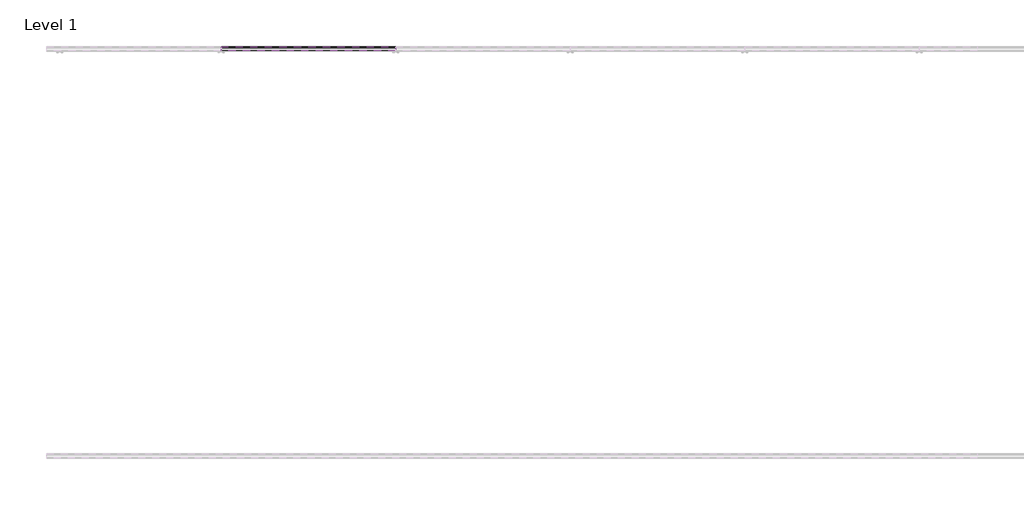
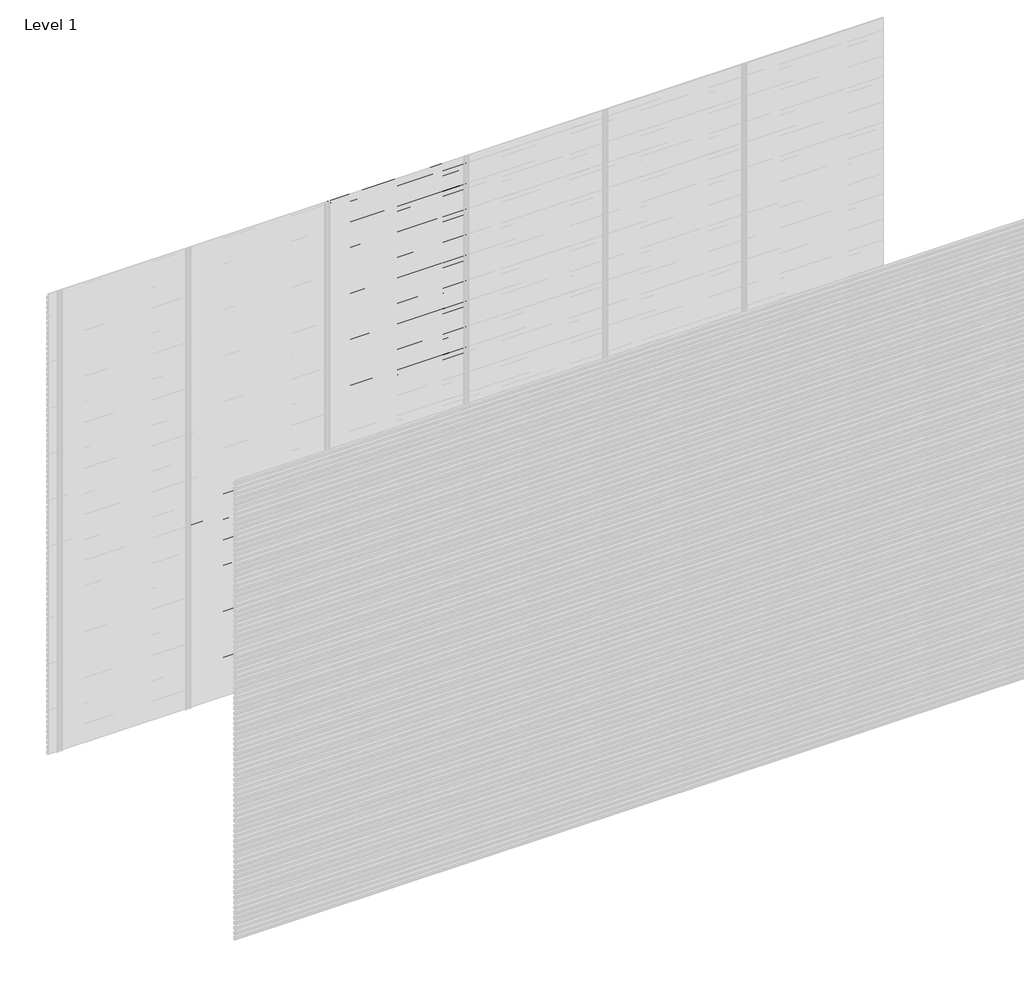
# One storey, part 91 of 96: 82 proxies.
"""IFC4 building model written with IfcOpenShell, lengths in millimetres."""

from ifc_helpers import new_model, si_unit, frame, origin, place, context, project, spatial, polyline, outline, extrude, element, save

model = new_model("IFC4")

# Units and contexts
model_context = context("Model", 3, world=origin())
ifc_project = project(units=[si_unit("LENGTHUNIT", "METRE", prefix="MILLI")], contexts=[model_context])

# Site, building, storey
site = spatial("IfcSite", under=ifc_project)
building = spatial("IfcBuilding", under=site)
storey = spatial("IfcBuildingStorey", under=building, Name="Level 1", Elevation=0.0)

# Proxies
placement = place(None, origin())
element("IfcBuildingElementProxy", 1, Name="Wall Sweeps", at=placement, inside=storey, context=model_context, shape_type="SweptSolid", body=[
    extrude(outline(polyline([(22.4, 1306.7655033), (22.4, 1292.4779188), (17.5885035, 1289.7), (17.5885035, 1290.9701706), (21.15, 1293.0264016), (21.15, 1306.0437382), (2.0, 1317.1000799), (2.0, 1332.0), (3.25, 1332.0), (3.25, 1317.8217609), (22.4, 1306.7655033)])), frame((857.1428571, 0.0, 0.0), z_axis=(1.0, 0.0, 0.0), x_axis=(0.0, 1.0, 0.0)), (0.0, 0.0, 1.0), 857.1428571),
])
element("IfcBuildingElementProxy", 2, Name="Wall Sweeps", at=placement, inside=storey, context=model_context, shape_type="SweptSolid", body=[
    extrude(outline(polyline([(22.4, 1273.4655033), (22.4, 1259.1779188), (17.5885035, 1256.4), (17.5885035, 1257.6701706), (21.15, 1259.7264016), (21.15, 1272.7437382), (2.0, 1283.8000799), (2.0, 1298.7), (3.25, 1298.7), (3.25, 1284.5217609), (22.4, 1273.4655033)])), frame((857.1428571, 0.0, 0.0), z_axis=(1.0, 0.0, 0.0), x_axis=(0.0, 1.0, 0.0)), (0.0, 0.0, 1.0), 857.1428571),
])
element("IfcBuildingElementProxy", 3, Name="Wall Sweeps", at=placement, inside=storey, context=model_context, shape_type="SweptSolid", body=[
    extrude(outline(polyline([(22.4, 1240.1655033), (22.4, 1225.8779188), (17.5885035, 1223.1), (17.5885035, 1224.3701706), (21.15, 1226.4264016), (21.15, 1239.4437382), (2.0, 1250.5000799), (2.0, 1265.4), (3.25, 1265.4), (3.25, 1251.2217609), (22.4, 1240.1655033)])), frame((857.1428571, 0.0, 0.0), z_axis=(1.0, 0.0, 0.0), x_axis=(0.0, 1.0, 0.0)), (0.0, 0.0, 1.0), 857.1428571),
])
element("IfcBuildingElementProxy", 4, Name="Wall Sweeps", at=placement, inside=storey, context=model_context, shape_type="SweptSolid", body=[
    extrude(outline(polyline([(22.4, 1206.8655033), (22.4, 1192.5779188), (17.5885035, 1189.8), (17.5885035, 1191.0701706), (21.15, 1193.1264016), (21.15, 1206.1437382), (2.0, 1217.2000799), (2.0, 1232.1), (3.25, 1232.1), (3.25, 1217.9217609), (22.4, 1206.8655033)])), frame((857.1428571, 0.0, 0.0), z_axis=(1.0, 0.0, 0.0), x_axis=(0.0, 1.0, 0.0)), (0.0, 0.0, 1.0), 857.1428571),
])
element("IfcBuildingElementProxy", 5, Name="Wall Sweeps", at=placement, inside=storey, context=model_context, shape_type="SweptSolid", body=[
    extrude(outline(polyline([(22.4, 1173.5655033), (22.4, 1159.2779188), (17.5885035, 1156.5), (17.5885035, 1157.7701706), (21.15, 1159.8264016), (21.15, 1172.8437382), (2.0, 1183.9000799), (2.0, 1198.8), (3.25, 1198.8), (3.25, 1184.6217609), (22.4, 1173.5655033)])), frame((857.1428571, 0.0, 0.0), z_axis=(1.0, 0.0, 0.0), x_axis=(0.0, 1.0, 0.0)), (0.0, 0.0, 1.0), 857.1428571),
])
element("IfcBuildingElementProxy", 6, Name="Wall Sweeps", at=placement, inside=storey, context=model_context, shape_type="SweptSolid", body=[
    extrude(outline(polyline([(22.4, 1140.2655033), (22.4, 1125.9779188), (17.5885035, 1123.2), (17.5885035, 1124.4701706), (21.15, 1126.5264016), (21.15, 1139.5437382), (2.0, 1150.6000799), (2.0, 1165.5), (3.25, 1165.5), (3.25, 1151.3217609), (22.4, 1140.2655033)])), frame((857.1428571, 0.0, 0.0), z_axis=(1.0, 0.0, 0.0), x_axis=(0.0, 1.0, 0.0)), (0.0, 0.0, 1.0), 857.1428571),
])
element("IfcBuildingElementProxy", 7, Name="Wall Sweeps", at=placement, inside=storey, context=model_context, shape_type="SweptSolid", body=[
    extrude(outline(polyline([(22.4, 1106.9655033), (22.4, 1092.6779188), (17.5885035, 1089.9), (17.5885035, 1091.1701706), (21.15, 1093.2264016), (21.15, 1106.2437382), (2.0, 1117.3000799), (2.0, 1132.2), (3.25, 1132.2), (3.25, 1118.0217609), (22.4, 1106.9655033)])), frame((857.1428571, 0.0, 0.0), z_axis=(1.0, 0.0, 0.0), x_axis=(0.0, 1.0, 0.0)), (0.0, 0.0, 1.0), 857.1428571),
])
element("IfcBuildingElementProxy", 8, Name="Wall Sweeps", at=placement, inside=storey, context=model_context, shape_type="SweptSolid", body=[
    extrude(outline(polyline([(22.4, 1073.6655033), (22.4, 1059.3779188), (17.5885035, 1056.6), (17.5885035, 1057.8701706), (21.15, 1059.9264016), (21.15, 1072.9437382), (2.0, 1084.0000799), (2.0, 1098.9), (3.25, 1098.9), (3.25, 1084.7217609), (22.4, 1073.6655033)])), frame((857.1428571, 0.0, 0.0), z_axis=(1.0, 0.0, 0.0), x_axis=(0.0, 1.0, 0.0)), (0.0, 0.0, 1.0), 857.1428571),
])
element("IfcBuildingElementProxy", 9, Name="Wall Sweeps", at=placement, inside=storey, context=model_context, shape_type="SweptSolid", body=[
    extrude(outline(polyline([(22.4, 1040.3655033), (22.4, 1026.0779188), (17.5885035, 1023.3), (17.5885035, 1024.5701706), (21.15, 1026.6264016), (21.15, 1039.6437382), (2.0, 1050.7000799), (2.0, 1065.6), (3.25, 1065.6), (3.25, 1051.4217609), (22.4, 1040.3655033)])), frame((857.1428571, 0.0, 0.0), z_axis=(1.0, 0.0, 0.0), x_axis=(0.0, 1.0, 0.0)), (0.0, 0.0, 1.0), 857.1428571),
])
element("IfcBuildingElementProxy", 10, Name="Wall Sweeps", at=placement, inside=storey, context=model_context, shape_type="SweptSolid", body=[
    extrude(outline(polyline([(22.4, 1007.0655033), (22.4, 992.7779188), (17.5885035, 990.0), (17.5885035, 991.2701706), (21.15, 993.3264016), (21.15, 1006.3437382), (2.0, 1017.4000799), (2.0, 1032.3), (3.25, 1032.3), (3.25, 1018.1217609), (22.4, 1007.0655033)])), frame((857.1428571, 0.0, 0.0), z_axis=(1.0, 0.0, 0.0), x_axis=(0.0, 1.0, 0.0)), (0.0, 0.0, 1.0), 857.1428571),
])
element("IfcBuildingElementProxy", 11, Name="Wall Sweeps", at=placement, inside=storey, context=model_context, shape_type="SweptSolid", body=[
    extrude(outline(polyline([(22.4, 973.7655033), (22.4, 959.4779188), (17.5885035, 956.7), (17.5885035, 957.9701706), (21.15, 960.0264016), (21.15, 973.0437382), (2.0, 984.1000799), (2.0, 999.0), (3.25, 999.0), (3.25, 984.8217609), (22.4, 973.7655033)])), frame((857.1428571, 0.0, 0.0), z_axis=(1.0, 0.0, 0.0), x_axis=(0.0, 1.0, 0.0)), (0.0, 0.0, 1.0), 857.1428571),
])
element("IfcBuildingElementProxy", 12, Name="Wall Sweeps", at=placement, inside=storey, context=model_context, shape_type="SweptSolid", body=[
    extrude(outline(polyline([(22.4, 940.4655033), (22.4, 926.1779188), (17.5885035, 923.4), (17.5885035, 924.6701706), (21.15, 926.7264016), (21.15, 939.7437382), (2.0, 950.8000799), (2.0, 965.7), (3.25, 965.7), (3.25, 951.5217609), (22.4, 940.4655033)])), frame((857.1428571, 0.0, 0.0), z_axis=(1.0, 0.0, 0.0), x_axis=(0.0, 1.0, 0.0)), (0.0, 0.0, 1.0), 857.1428571),
])
element("IfcBuildingElementProxy", 13, Name="Wall Sweeps", at=placement, inside=storey, context=model_context, shape_type="SweptSolid", body=[
    extrude(outline(polyline([(22.4, 907.1655033), (22.4, 892.8779188), (17.5885035, 890.1), (17.5885035, 891.3701706), (21.15, 893.4264016), (21.15, 906.4437382), (2.0, 917.5000799), (2.0, 932.4), (3.25, 932.4), (3.25, 918.2217609), (22.4, 907.1655033)])), frame((857.1428571, 0.0, 0.0), z_axis=(1.0, 0.0, 0.0), x_axis=(0.0, 1.0, 0.0)), (0.0, 0.0, 1.0), 857.1428571),
])
element("IfcBuildingElementProxy", 14, Name="Wall Sweeps", at=placement, inside=storey, context=model_context, shape_type="SweptSolid", body=[
    extrude(outline(polyline([(22.4, 873.8655033), (22.4, 859.5779188), (17.5885035, 856.8), (17.5885035, 858.0701706), (21.15, 860.1264016), (21.15, 873.1437382), (2.0, 884.2000799), (2.0, 899.1), (3.25, 899.1), (3.25, 884.9217609), (22.4, 873.8655033)])), frame((857.1428571, 0.0, 0.0), z_axis=(1.0, 0.0, 0.0), x_axis=(0.0, 1.0, 0.0)), (0.0, 0.0, 1.0), 857.1428571),
])
element("IfcBuildingElementProxy", 15, Name="Wall Sweeps", at=placement, inside=storey, context=model_context, shape_type="SweptSolid", body=[
    extrude(outline(polyline([(22.4, 840.5655033), (22.4, 826.2779188), (17.5885035, 823.5), (17.5885035, 824.7701706), (21.15, 826.8264016), (21.15, 839.8437382), (2.0, 850.9000799), (2.0, 865.8), (3.25, 865.8), (3.25, 851.6217609), (22.4, 840.5655033)])), frame((857.1428571, 0.0, 0.0), z_axis=(1.0, 0.0, 0.0), x_axis=(0.0, 1.0, 0.0)), (0.0, 0.0, 1.0), 857.1428571),
])
element("IfcBuildingElementProxy", 16, Name="Wall Sweeps", at=placement, inside=storey, context=model_context, shape_type="SweptSolid", body=[
    extrude(outline(polyline([(22.4, 807.2655033), (22.4, 792.9779188), (17.5885035, 790.2), (17.5885035, 791.4701706), (21.15, 793.5264016), (21.15, 806.5437382), (2.0, 817.6000799), (2.0, 832.5), (3.25, 832.5), (3.25, 818.3217609), (22.4, 807.2655033)])), frame((857.1428571, 0.0, 0.0), z_axis=(1.0, 0.0, 0.0), x_axis=(0.0, 1.0, 0.0)), (0.0, 0.0, 1.0), 857.1428571),
])
element("IfcBuildingElementProxy", 17, Name="Wall Sweeps", at=placement, inside=storey, context=model_context, shape_type="SweptSolid", body=[
    extrude(outline(polyline([(22.4, 773.9655033), (22.4, 759.6779188), (17.5885035, 756.9), (17.5885035, 758.1701706), (21.15, 760.2264016), (21.15, 773.2437382), (2.0, 784.3000799), (2.0, 799.2), (3.25, 799.2), (3.25, 785.0217609), (22.4, 773.9655033)])), frame((857.1428571, 0.0, 0.0), z_axis=(1.0, 0.0, 0.0), x_axis=(0.0, 1.0, 0.0)), (0.0, 0.0, 1.0), 857.1428571),
])
element("IfcBuildingElementProxy", 18, Name="Wall Sweeps", at=placement, inside=storey, context=model_context, shape_type="SweptSolid", body=[
    extrude(outline(polyline([(22.4, 740.6655033), (22.4, 726.3779188), (17.5885035, 723.6), (17.5885035, 724.8701706), (21.15, 726.9264016), (21.15, 739.9437382), (2.0, 751.0000799), (2.0, 765.9), (3.25, 765.9), (3.25, 751.7217609), (22.4, 740.6655033)])), frame((857.1428571, 0.0, 0.0), z_axis=(1.0, 0.0, 0.0), x_axis=(0.0, 1.0, 0.0)), (0.0, 0.0, 1.0), 857.1428571),
])
element("IfcBuildingElementProxy", 19, Name="Wall Sweeps", at=placement, inside=storey, context=model_context, shape_type="SweptSolid", body=[
    extrude(outline(polyline([(22.4, 707.3655033), (22.4, 693.0779188), (17.5885035, 690.3), (17.5885035, 691.5701706), (21.15, 693.6264016), (21.15, 706.6437382), (2.0, 717.7000799), (2.0, 732.6), (3.25, 732.6), (3.25, 718.4217609), (22.4, 707.3655033)])), frame((857.1428571, 0.0, 0.0), z_axis=(1.0, 0.0, 0.0), x_axis=(0.0, 1.0, 0.0)), (0.0, 0.0, 1.0), 857.1428571),
])
element("IfcBuildingElementProxy", 20, Name="Wall Sweeps", at=placement, inside=storey, context=model_context, shape_type="SweptSolid", body=[
    extrude(outline(polyline([(22.4, 674.0655033), (22.4, 659.7779188), (17.5885035, 657.0), (17.5885035, 658.2701706), (21.15, 660.3264016), (21.15, 673.3437382), (2.0, 684.4000799), (2.0, 699.3), (3.25, 699.3), (3.25, 685.1217609), (22.4, 674.0655033)])), frame((857.1428571, 0.0, 0.0), z_axis=(1.0, 0.0, 0.0), x_axis=(0.0, 1.0, 0.0)), (0.0, 0.0, 1.0), 857.1428571),
])
element("IfcBuildingElementProxy", 21, Name="Wall Sweeps", at=placement, inside=storey, context=model_context, shape_type="SweptSolid", body=[
    extrude(outline(polyline([(22.4, 640.7655033), (22.4, 626.4779188), (17.5885035, 623.7), (17.5885035, 624.9701706), (21.15, 627.0264016), (21.15, 640.0437382), (2.0, 651.1000799), (2.0, 666.0), (3.25, 666.0), (3.25, 651.8217609), (22.4, 640.7655033)])), frame((857.1428571, 0.0, 0.0), z_axis=(1.0, 0.0, 0.0), x_axis=(0.0, 1.0, 0.0)), (0.0, 0.0, 1.0), 857.1428571),
])
element("IfcBuildingElementProxy", 22, Name="Wall Sweeps", at=placement, inside=storey, context=model_context, shape_type="SweptSolid", body=[
    extrude(outline(polyline([(22.4, 607.4655033), (22.4, 593.1779188), (17.5885035, 590.4), (17.5885035, 591.6701706), (21.15, 593.7264016), (21.15, 606.7437382), (2.0, 617.8000799), (2.0, 632.7), (3.25, 632.7), (3.25, 618.5217609), (22.4, 607.4655033)])), frame((857.1428571, 0.0, 0.0), z_axis=(1.0, 0.0, 0.0), x_axis=(0.0, 1.0, 0.0)), (0.0, 0.0, 1.0), 857.1428571),
])
element("IfcBuildingElementProxy", 23, Name="Wall Sweeps", at=placement, inside=storey, context=model_context, shape_type="SweptSolid", body=[
    extrude(outline(polyline([(22.4, 574.1655033), (22.4, 559.8779188), (17.5885035, 557.1), (17.5885035, 558.3701706), (21.15, 560.4264016), (21.15, 573.4437382), (2.0, 584.5000799), (2.0, 599.4), (3.25, 599.4), (3.25, 585.2217609), (22.4, 574.1655033)])), frame((857.1428571, 0.0, 0.0), z_axis=(1.0, 0.0, 0.0), x_axis=(0.0, 1.0, 0.0)), (0.0, 0.0, 1.0), 857.1428571),
])
element("IfcBuildingElementProxy", 24, Name="Wall Sweeps", at=placement, inside=storey, context=model_context, shape_type="SweptSolid", body=[
    extrude(outline(polyline([(22.4, 540.8655033), (22.4, 526.5779188), (17.5885035, 523.8), (17.5885035, 525.0701706), (21.15, 527.1264016), (21.15, 540.1437382), (2.0, 551.2000799), (2.0, 566.1), (3.25, 566.1), (3.25, 551.9217609), (22.4, 540.8655033)])), frame((857.1428571, 0.0, 0.0), z_axis=(1.0, 0.0, 0.0), x_axis=(0.0, 1.0, 0.0)), (0.0, 0.0, 1.0), 857.1428571),
])
element("IfcBuildingElementProxy", 25, Name="Wall Sweeps", at=placement, inside=storey, context=model_context, shape_type="SweptSolid", body=[
    extrude(outline(polyline([(22.4, 507.5655033), (22.4, 493.2779188), (17.5885035, 490.5), (17.5885035, 491.7701706), (21.15, 493.8264016), (21.15, 506.8437382), (2.0, 517.9000799), (2.0, 532.8), (3.25, 532.8), (3.25, 518.6217609), (22.4, 507.5655033)])), frame((857.1428571, 0.0, 0.0), z_axis=(1.0, 0.0, 0.0), x_axis=(0.0, 1.0, 0.0)), (0.0, 0.0, 1.0), 857.1428571),
])
element("IfcBuildingElementProxy", 26, Name="Wall Sweeps", at=placement, inside=storey, context=model_context, shape_type="SweptSolid", body=[
    extrude(outline(polyline([(22.4, 474.2655033), (22.4, 459.9779188), (17.5885035, 457.2), (17.5885035, 458.4701706), (21.15, 460.5264016), (21.15, 473.5437382), (2.0, 484.6000799), (2.0, 499.5), (3.25, 499.5), (3.25, 485.3217609), (22.4, 474.2655033)])), frame((857.1428571, 0.0, 0.0), z_axis=(1.0, 0.0, 0.0), x_axis=(0.0, 1.0, 0.0)), (0.0, 0.0, 1.0), 857.1428571),
])
element("IfcBuildingElementProxy", 27, Name="Wall Sweeps", at=placement, inside=storey, context=model_context, shape_type="SweptSolid", body=[
    extrude(outline(polyline([(22.4, 440.9655033), (22.4, 426.6779188), (17.5885035, 423.9), (17.5885035, 425.1701706), (21.15, 427.2264016), (21.15, 440.2437382), (2.0, 451.3000799), (2.0, 466.2), (3.25, 466.2), (3.25, 452.0217609), (22.4, 440.9655033)])), frame((857.1428571, 0.0, 0.0), z_axis=(1.0, 0.0, 0.0), x_axis=(0.0, 1.0, 0.0)), (0.0, 0.0, 1.0), 857.1428571),
])
element("IfcBuildingElementProxy", 28, Name="Wall Sweeps", at=placement, inside=storey, context=model_context, shape_type="SweptSolid", body=[
    extrude(outline(polyline([(22.4, 407.6655033), (22.4, 393.3779188), (17.5885035, 390.6), (17.5885035, 391.8701706), (21.15, 393.9264016), (21.15, 406.9437382), (2.0, 418.0000799), (2.0, 432.9), (3.25, 432.9), (3.25, 418.7217609), (22.4, 407.6655033)])), frame((857.1428571, 0.0, 0.0), z_axis=(1.0, 0.0, 0.0), x_axis=(0.0, 1.0, 0.0)), (0.0, 0.0, 1.0), 857.1428571),
])
element("IfcBuildingElementProxy", 29, Name="Wall Sweeps", at=placement, inside=storey, context=model_context, shape_type="SweptSolid", body=[
    extrude(outline(polyline([(22.4, 374.3655033), (22.4, 360.0779188), (17.5885035, 357.3), (17.5885035, 358.5701706), (21.15, 360.6264016), (21.15, 373.6437382), (2.0, 384.7000799), (2.0, 399.6), (3.25, 399.6), (3.25, 385.4217609), (22.4, 374.3655033)])), frame((857.1428571, 0.0, 0.0), z_axis=(1.0, 0.0, 0.0), x_axis=(0.0, 1.0, 0.0)), (0.0, 0.0, 1.0), 857.1428571),
])
element("IfcBuildingElementProxy", 30, Name="Wall Sweeps", at=placement, inside=storey, context=model_context, shape_type="SweptSolid", body=[
    extrude(outline(polyline([(22.4, 341.0655033), (22.4, 326.7779188), (17.5885035, 324.0), (17.5885035, 325.2701706), (21.15, 327.3264016), (21.15, 340.3437382), (2.0, 351.4000799), (2.0, 366.3), (3.25, 366.3), (3.25, 352.1217609), (22.4, 341.0655033)])), frame((857.1428571, 0.0, 0.0), z_axis=(1.0, 0.0, 0.0), x_axis=(0.0, 1.0, 0.0)), (0.0, 0.0, 1.0), 857.1428571),
])
element("IfcBuildingElementProxy", 31, Name="Wall Sweeps", at=placement, inside=storey, context=model_context, shape_type="SweptSolid", body=[
    extrude(outline(polyline([(22.4, 307.7655033), (22.4, 293.4779188), (17.5885035, 290.7), (17.5885035, 291.9701706), (21.15, 294.0264016), (21.15, 307.0437382), (2.0, 318.1000799), (2.0, 333.0), (3.25, 333.0), (3.25, 318.8217609), (22.4, 307.7655033)])), frame((857.1428571, 0.0, 0.0), z_axis=(1.0, 0.0, 0.0), x_axis=(0.0, 1.0, 0.0)), (0.0, 0.0, 1.0), 857.1428571),
])
element("IfcBuildingElementProxy", 32, Name="Wall Sweeps", at=placement, inside=storey, context=model_context, shape_type="SweptSolid", body=[
    extrude(outline(polyline([(22.4, 274.4655033), (22.4, 260.1779188), (17.5885035, 257.4), (17.5885035, 258.6701706), (21.15, 260.7264016), (21.15, 273.7437382), (2.0, 284.8000799), (2.0, 299.7), (3.25, 299.7), (3.25, 285.5217609), (22.4, 274.4655033)])), frame((857.1428571, 0.0, 0.0), z_axis=(1.0, 0.0, 0.0), x_axis=(0.0, 1.0, 0.0)), (0.0, 0.0, 1.0), 857.1428571),
])
element("IfcBuildingElementProxy", 33, Name="Wall Sweeps", at=placement, inside=storey, context=model_context, shape_type="SweptSolid", body=[
    extrude(outline(polyline([(22.4, 241.1655033), (22.4, 226.8779188), (17.5885035, 224.1), (17.5885035, 225.3701706), (21.15, 227.4264016), (21.15, 240.4437382), (2.0, 251.5000799), (2.0, 266.4), (3.25, 266.4), (3.25, 252.2217609), (22.4, 241.1655033)])), frame((857.1428571, 0.0, 0.0), z_axis=(1.0, 0.0, 0.0), x_axis=(0.0, 1.0, 0.0)), (0.0, 0.0, 1.0), 857.1428571),
])
element("IfcBuildingElementProxy", 34, Name="Wall Sweeps", at=placement, inside=storey, context=model_context, shape_type="SweptSolid", body=[
    extrude(outline(polyline([(22.4, 207.8655033), (22.4, 193.5779188), (17.5885035, 190.8), (17.5885035, 192.0701706), (21.15, 194.1264016), (21.15, 207.1437382), (2.0, 218.2000799), (2.0, 233.1), (3.25, 233.1), (3.25, 218.9217609), (22.4, 207.8655033)])), frame((857.1428571, 0.0, 0.0), z_axis=(1.0, 0.0, 0.0), x_axis=(0.0, 1.0, 0.0)), (0.0, 0.0, 1.0), 857.1428571),
])
element("IfcBuildingElementProxy", 35, Name="Wall Sweeps", at=placement, inside=storey, context=model_context, shape_type="SweptSolid", body=[
    extrude(outline(polyline([(22.4, 174.5655033), (22.4, 160.2779188), (17.5885035, 157.5), (17.5885035, 158.7701706), (21.15, 160.8264016), (21.15, 173.8437382), (2.0, 184.9000799), (2.0, 199.8), (3.25, 199.8), (3.25, 185.6217609), (22.4, 174.5655033)])), frame((857.1428571, 0.0, 0.0), z_axis=(1.0, 0.0, 0.0), x_axis=(0.0, 1.0, 0.0)), (0.0, 0.0, 1.0), 857.1428571),
])
element("IfcBuildingElementProxy", 36, Name="Wall Sweeps", at=placement, inside=storey, context=model_context, shape_type="SweptSolid", body=[
    extrude(outline(polyline([(22.4, 141.2655033), (22.4, 126.9779188), (17.5885035, 124.2), (17.5885035, 125.4701706), (21.15, 127.5264016), (21.15, 140.5437382), (2.0, 151.6000799), (2.0, 166.5), (3.25, 166.5), (3.25, 152.3217609), (22.4, 141.2655033)])), frame((857.1428571, 0.0, 0.0), z_axis=(1.0, 0.0, 0.0), x_axis=(0.0, 1.0, 0.0)), (0.0, 0.0, 1.0), 857.1428571),
])
element("IfcBuildingElementProxy", 37, Name="Wall Sweeps", at=placement, inside=storey, context=model_context, shape_type="SweptSolid", body=[
    extrude(outline(polyline([(22.4, 107.9655033), (22.4, 93.6779188), (17.5885035, 90.9), (17.5885035, 92.1701706), (21.15, 94.2264016), (21.15, 107.2437382), (2.0, 118.3000799), (2.0, 133.2), (3.25, 133.2), (3.25, 119.0217609), (22.4, 107.9655033)])), frame((857.1428571, 0.0, 0.0), z_axis=(1.0, 0.0, 0.0), x_axis=(0.0, 1.0, 0.0)), (0.0, 0.0, 1.0), 857.1428571),
])
element("IfcBuildingElementProxy", 38, Name="Wall Sweeps", at=placement, inside=storey, context=model_context, shape_type="SweptSolid", body=[
    extrude(outline(polyline([(22.4, 74.6655033), (22.4, 60.3779188), (17.5885035, 57.6), (17.5885035, 58.8701706), (21.15, 60.9264016), (21.15, 73.9437382), (2.0, 85.0000799), (2.0, 99.9), (3.25, 99.9), (3.25, 85.7217609), (22.4, 74.6655033)])), frame((857.1428571, 0.0, 0.0), z_axis=(1.0, 0.0, 0.0), x_axis=(0.0, 1.0, 0.0)), (0.0, 0.0, 1.0), 857.1428571),
])
element("IfcBuildingElementProxy", 39, Name="Wall Sweeps", at=placement, inside=storey, context=model_context, shape_type="SweptSolid", body=[
    extrude(outline(polyline([(22.4, 41.3655033), (22.4, 27.0779188), (17.5885035, 24.3), (17.5885035, 25.5701706), (21.15, 27.6264016), (21.15, 40.6437382), (2.0, 51.7000799), (2.0, 66.6), (3.25, 66.6), (3.25, 52.4217609), (22.4, 41.3655033)])), frame((857.1428571, 0.0, 0.0), z_axis=(1.0, 0.0, 0.0), x_axis=(0.0, 1.0, 0.0)), (0.0, 0.0, 1.0), 857.1428571),
])
element("IfcBuildingElementProxy", 40, Name="Wall Sweeps", at=placement, inside=storey, context=model_context, shape_type="SweptSolid", body=[
    extrude(outline(polyline([(22.4, 8.0655033), (22.4, -6.2220812), (17.5885035, -9.0), (17.5885035, -7.7298294), (21.15, -5.6735984), (21.15, 7.3437382), (2.0, 18.4000799), (2.0, 33.3), (3.25, 33.3), (3.25, 19.1217609), (22.4, 8.0655033)])), frame((857.1428571, 0.0, 0.0), z_axis=(1.0, 0.0, 0.0), x_axis=(0.0, 1.0, 0.0)), (0.0, 0.0, 1.0), 857.1428571),
])
element("IfcBuildingElementProxy", 41, Name="Wall Sweeps", at=placement, inside=storey, context=model_context, shape_type="SweptSolid", body=[
    extrude(outline(polyline([(22.4, 2971.7655033), (22.4, 2957.4779188), (17.5885035, 2954.7), (17.5885035, 2955.9701706), (21.15, 2958.0264016), (21.15, 2971.0437382), (2.0, 2982.1000799), (2.0, 2997.0), (3.25, 2997.0), (3.25, 2982.8217609), (22.4, 2971.7655033)])), frame((1714.2857143, 0.0, 0.0), z_axis=(1.0, 0.0, 0.0), x_axis=(0.0, 1.0, 0.0)), (0.0, 0.0, 1.0), 857.1428571),
])
element("IfcBuildingElementProxy", 42, Name="Wall Sweeps", at=placement, inside=storey, context=model_context, shape_type="SweptSolid", body=[
    extrude(outline(polyline([(22.4, 2938.4655033), (22.4, 2924.1779188), (17.5885035, 2921.4), (17.5885035, 2922.6701706), (21.15, 2924.7264016), (21.15, 2937.7437382), (2.0, 2948.8000799), (2.0, 2963.7), (3.25, 2963.7), (3.25, 2949.5217609), (22.4, 2938.4655033)])), frame((1714.2857143, 0.0, 0.0), z_axis=(1.0, 0.0, 0.0), x_axis=(0.0, 1.0, 0.0)), (0.0, 0.0, 1.0), 857.1428571),
])
element("IfcBuildingElementProxy", 43, Name="Wall Sweeps", at=placement, inside=storey, context=model_context, shape_type="SweptSolid", body=[
    extrude(outline(polyline([(22.4, 2905.1655033), (22.4, 2890.8779188), (17.5885035, 2888.1), (17.5885035, 2889.3701706), (21.15, 2891.4264016), (21.15, 2904.4437382), (2.0, 2915.5000799), (2.0, 2930.4), (3.25, 2930.4), (3.25, 2916.2217609), (22.4, 2905.1655033)])), frame((1714.2857143, 0.0, 0.0), z_axis=(1.0, 0.0, 0.0), x_axis=(0.0, 1.0, 0.0)), (0.0, 0.0, 1.0), 857.1428571),
])
element("IfcBuildingElementProxy", 44, Name="Wall Sweeps", at=placement, inside=storey, context=model_context, shape_type="SweptSolid", body=[
    extrude(outline(polyline([(22.4, 2871.8655033), (22.4, 2857.5779188), (17.5885035, 2854.8), (17.5885035, 2856.0701706), (21.15, 2858.1264016), (21.15, 2871.1437382), (2.0, 2882.2000799), (2.0, 2897.1), (3.25, 2897.1), (3.25, 2882.9217609), (22.4, 2871.8655033)])), frame((1714.2857143, 0.0, 0.0), z_axis=(1.0, 0.0, 0.0), x_axis=(0.0, 1.0, 0.0)), (0.0, 0.0, 1.0), 857.1428571),
])
element("IfcBuildingElementProxy", 45, Name="Wall Sweeps", at=placement, inside=storey, context=model_context, shape_type="SweptSolid", body=[
    extrude(outline(polyline([(22.4, 2838.5655033), (22.4, 2824.2779188), (17.5885035, 2821.5), (17.5885035, 2822.7701706), (21.15, 2824.8264016), (21.15, 2837.8437382), (2.0, 2848.9000799), (2.0, 2863.8), (3.25, 2863.8), (3.25, 2849.6217609), (22.4, 2838.5655033)])), frame((1714.2857143, 0.0, 0.0), z_axis=(1.0, 0.0, 0.0), x_axis=(0.0, 1.0, 0.0)), (0.0, 0.0, 1.0), 857.1428571),
])
element("IfcBuildingElementProxy", 46, Name="Wall Sweeps", at=placement, inside=storey, context=model_context, shape_type="SweptSolid", body=[
    extrude(outline(polyline([(22.4, 2805.2655033), (22.4, 2790.9779188), (17.5885035, 2788.2), (17.5885035, 2789.4701706), (21.15, 2791.5264016), (21.15, 2804.5437382), (2.0, 2815.6000799), (2.0, 2830.5), (3.25, 2830.5), (3.25, 2816.3217609), (22.4, 2805.2655033)])), frame((1714.2857143, 0.0, 0.0), z_axis=(1.0, 0.0, 0.0), x_axis=(0.0, 1.0, 0.0)), (0.0, 0.0, 1.0), 857.1428571),
])
element("IfcBuildingElementProxy", 47, Name="Wall Sweeps", at=placement, inside=storey, context=model_context, shape_type="SweptSolid", body=[
    extrude(outline(polyline([(22.4, 2771.9655033), (22.4, 2757.6779188), (17.5885035, 2754.9), (17.5885035, 2756.1701706), (21.15, 2758.2264016), (21.15, 2771.2437382), (2.0, 2782.3000799), (2.0, 2797.2), (3.25, 2797.2), (3.25, 2783.0217609), (22.4, 2771.9655033)])), frame((1714.2857143, 0.0, 0.0), z_axis=(1.0, 0.0, 0.0), x_axis=(0.0, 1.0, 0.0)), (0.0, 0.0, 1.0), 857.1428571),
])
element("IfcBuildingElementProxy", 48, Name="Wall Sweeps", at=placement, inside=storey, context=model_context, shape_type="SweptSolid", body=[
    extrude(outline(polyline([(22.4, 2738.6655033), (22.4, 2724.3779188), (17.5885035, 2721.6), (17.5885035, 2722.8701706), (21.15, 2724.9264016), (21.15, 2737.9437382), (2.0, 2749.0000799), (2.0, 2763.9), (3.25, 2763.9), (3.25, 2749.7217609), (22.4, 2738.6655033)])), frame((1714.2857143, 0.0, 0.0), z_axis=(1.0, 0.0, 0.0), x_axis=(0.0, 1.0, 0.0)), (0.0, 0.0, 1.0), 857.1428571),
])
element("IfcBuildingElementProxy", 49, Name="Wall Sweeps", at=placement, inside=storey, context=model_context, shape_type="SweptSolid", body=[
    extrude(outline(polyline([(22.4, 2705.3655033), (22.4, 2691.0779188), (17.5885035, 2688.3), (17.5885035, 2689.5701706), (21.15, 2691.6264016), (21.15, 2704.6437382), (2.0, 2715.7000799), (2.0, 2730.6), (3.25, 2730.6), (3.25, 2716.4217609), (22.4, 2705.3655033)])), frame((1714.2857143, 0.0, 0.0), z_axis=(1.0, 0.0, 0.0), x_axis=(0.0, 1.0, 0.0)), (0.0, 0.0, 1.0), 857.1428571),
])
element("IfcBuildingElementProxy", 50, Name="Wall Sweeps", at=placement, inside=storey, context=model_context, shape_type="SweptSolid", body=[
    extrude(outline(polyline([(22.4, 2672.0655033), (22.4, 2657.7779188), (17.5885035, 2655.0), (17.5885035, 2656.2701706), (21.15, 2658.3264016), (21.15, 2671.3437382), (2.0, 2682.4000799), (2.0, 2697.3), (3.25, 2697.3), (3.25, 2683.1217609), (22.4, 2672.0655033)])), frame((1714.2857143, 0.0, 0.0), z_axis=(1.0, 0.0, 0.0), x_axis=(0.0, 1.0, 0.0)), (0.0, 0.0, 1.0), 857.1428571),
])
element("IfcBuildingElementProxy", 51, Name="Wall Sweeps", at=placement, inside=storey, context=model_context, shape_type="SweptSolid", body=[
    extrude(outline(polyline([(22.4, 2638.7655033), (22.4, 2624.4779188), (17.5885035, 2621.7), (17.5885035, 2622.9701706), (21.15, 2625.0264016), (21.15, 2638.0437382), (2.0, 2649.1000799), (2.0, 2664.0), (3.25, 2664.0), (3.25, 2649.8217609), (22.4, 2638.7655033)])), frame((1714.2857143, 0.0, 0.0), z_axis=(1.0, 0.0, 0.0), x_axis=(0.0, 1.0, 0.0)), (0.0, 0.0, 1.0), 857.1428571),
])
element("IfcBuildingElementProxy", 52, Name="Wall Sweeps", at=placement, inside=storey, context=model_context, shape_type="SweptSolid", body=[
    extrude(outline(polyline([(22.4, 2605.4655033), (22.4, 2591.1779188), (17.5885035, 2588.4), (17.5885035, 2589.6701706), (21.15, 2591.7264016), (21.15, 2604.7437382), (2.0, 2615.8000799), (2.0, 2630.7), (3.25, 2630.7), (3.25, 2616.5217609), (22.4, 2605.4655033)])), frame((1714.2857143, 0.0, 0.0), z_axis=(1.0, 0.0, 0.0), x_axis=(0.0, 1.0, 0.0)), (0.0, 0.0, 1.0), 857.1428571),
])
element("IfcBuildingElementProxy", 53, Name="Wall Sweeps", at=placement, inside=storey, context=model_context, shape_type="SweptSolid", body=[
    extrude(outline(polyline([(22.4, 2572.1655033), (22.4, 2557.8779188), (17.5885035, 2555.1), (17.5885035, 2556.3701706), (21.15, 2558.4264016), (21.15, 2571.4437382), (2.0, 2582.5000799), (2.0, 2597.4), (3.25, 2597.4), (3.25, 2583.2217609), (22.4, 2572.1655033)])), frame((1714.2857143, 0.0, 0.0), z_axis=(1.0, 0.0, 0.0), x_axis=(0.0, 1.0, 0.0)), (0.0, 0.0, 1.0), 857.1428571),
])
element("IfcBuildingElementProxy", 54, Name="Wall Sweeps", at=placement, inside=storey, context=model_context, shape_type="SweptSolid", body=[
    extrude(outline(polyline([(22.4, 2538.8655033), (22.4, 2524.5779188), (17.5885035, 2521.8), (17.5885035, 2523.0701706), (21.15, 2525.1264016), (21.15, 2538.1437382), (2.0, 2549.2000799), (2.0, 2564.1), (3.25, 2564.1), (3.25, 2549.9217609), (22.4, 2538.8655033)])), frame((1714.2857143, 0.0, 0.0), z_axis=(1.0, 0.0, 0.0), x_axis=(0.0, 1.0, 0.0)), (0.0, 0.0, 1.0), 857.1428571),
])
element("IfcBuildingElementProxy", 55, Name="Wall Sweeps", at=placement, inside=storey, context=model_context, shape_type="SweptSolid", body=[
    extrude(outline(polyline([(22.4, 2505.5655033), (22.4, 2491.2779188), (17.5885035, 2488.5), (17.5885035, 2489.7701706), (21.15, 2491.8264016), (21.15, 2504.8437382), (2.0, 2515.9000799), (2.0, 2530.8), (3.25, 2530.8), (3.25, 2516.6217609), (22.4, 2505.5655033)])), frame((1714.2857143, 0.0, 0.0), z_axis=(1.0, 0.0, 0.0), x_axis=(0.0, 1.0, 0.0)), (0.0, 0.0, 1.0), 857.1428571),
])
element("IfcBuildingElementProxy", 56, Name="Wall Sweeps", at=placement, inside=storey, context=model_context, shape_type="SweptSolid", body=[
    extrude(outline(polyline([(22.4, 2472.2655033), (22.4, 2457.9779188), (17.5885035, 2455.2), (17.5885035, 2456.4701706), (21.15, 2458.5264016), (21.15, 2471.5437382), (2.0, 2482.6000799), (2.0, 2497.5), (3.25, 2497.5), (3.25, 2483.3217609), (22.4, 2472.2655033)])), frame((1714.2857143, 0.0, 0.0), z_axis=(1.0, 0.0, 0.0), x_axis=(0.0, 1.0, 0.0)), (0.0, 0.0, 1.0), 857.1428571),
])
element("IfcBuildingElementProxy", 57, Name="Wall Sweeps", at=placement, inside=storey, context=model_context, shape_type="SweptSolid", body=[
    extrude(outline(polyline([(22.4, 2438.9655033), (22.4, 2424.6779188), (17.5885035, 2421.9), (17.5885035, 2423.1701706), (21.15, 2425.2264016), (21.15, 2438.2437382), (2.0, 2449.3000799), (2.0, 2464.2), (3.25, 2464.2), (3.25, 2450.0217609), (22.4, 2438.9655033)])), frame((1714.2857143, 0.0, 0.0), z_axis=(1.0, 0.0, 0.0), x_axis=(0.0, 1.0, 0.0)), (0.0, 0.0, 1.0), 857.1428571),
])
element("IfcBuildingElementProxy", 58, Name="Wall Sweeps", at=placement, inside=storey, context=model_context, shape_type="SweptSolid", body=[
    extrude(outline(polyline([(22.4, 2405.6655033), (22.4, 2391.3779188), (17.5885035, 2388.6), (17.5885035, 2389.8701706), (21.15, 2391.9264016), (21.15, 2404.9437382), (2.0, 2416.0000799), (2.0, 2430.9), (3.25, 2430.9), (3.25, 2416.7217609), (22.4, 2405.6655033)])), frame((1714.2857143, 0.0, 0.0), z_axis=(1.0, 0.0, 0.0), x_axis=(0.0, 1.0, 0.0)), (0.0, 0.0, 1.0), 857.1428571),
])
element("IfcBuildingElementProxy", 59, Name="Wall Sweeps", at=placement, inside=storey, context=model_context, shape_type="SweptSolid", body=[
    extrude(outline(polyline([(22.4, 2372.3655033), (22.4, 2358.0779188), (17.5885035, 2355.3), (17.5885035, 2356.5701706), (21.15, 2358.6264016), (21.15, 2371.6437382), (2.0, 2382.7000799), (2.0, 2397.6), (3.25, 2397.6), (3.25, 2383.4217609), (22.4, 2372.3655033)])), frame((1714.2857143, 0.0, 0.0), z_axis=(1.0, 0.0, 0.0), x_axis=(0.0, 1.0, 0.0)), (0.0, 0.0, 1.0), 857.1428571),
])
element("IfcBuildingElementProxy", 60, Name="Wall Sweeps", at=placement, inside=storey, context=model_context, shape_type="SweptSolid", body=[
    extrude(outline(polyline([(22.4, 2339.0655033), (22.4, 2324.7779188), (17.5885035, 2322.0), (17.5885035, 2323.2701706), (21.15, 2325.3264016), (21.15, 2338.3437382), (2.0, 2349.4000799), (2.0, 2364.3), (3.25, 2364.3), (3.25, 2350.1217609), (22.4, 2339.0655033)])), frame((1714.2857143, 0.0, 0.0), z_axis=(1.0, 0.0, 0.0), x_axis=(0.0, 1.0, 0.0)), (0.0, 0.0, 1.0), 857.1428571),
])
element("IfcBuildingElementProxy", 61, Name="Wall Sweeps", at=placement, inside=storey, context=model_context, shape_type="SweptSolid", body=[
    extrude(outline(polyline([(22.4, 2305.7655033), (22.4, 2291.4779188), (17.5885035, 2288.7), (17.5885035, 2289.9701706), (21.15, 2292.0264016), (21.15, 2305.0437382), (2.0, 2316.1000799), (2.0, 2331.0), (3.25, 2331.0), (3.25, 2316.8217609), (22.4, 2305.7655033)])), frame((1714.2857143, 0.0, 0.0), z_axis=(1.0, 0.0, 0.0), x_axis=(0.0, 1.0, 0.0)), (0.0, 0.0, 1.0), 857.1428571),
])
element("IfcBuildingElementProxy", 62, Name="Wall Sweeps", at=placement, inside=storey, context=model_context, shape_type="SweptSolid", body=[
    extrude(outline(polyline([(22.4, 2272.4655033), (22.4, 2258.1779188), (17.5885035, 2255.4), (17.5885035, 2256.6701706), (21.15, 2258.7264016), (21.15, 2271.7437382), (2.0, 2282.8000799), (2.0, 2297.7), (3.25, 2297.7), (3.25, 2283.5217609), (22.4, 2272.4655033)])), frame((1714.2857143, 0.0, 0.0), z_axis=(1.0, 0.0, 0.0), x_axis=(0.0, 1.0, 0.0)), (0.0, 0.0, 1.0), 857.1428571),
])
element("IfcBuildingElementProxy", 63, Name="Wall Sweeps", at=placement, inside=storey, context=model_context, shape_type="SweptSolid", body=[
    extrude(outline(polyline([(22.4, 2239.1655033), (22.4, 2224.8779188), (17.5885035, 2222.1), (17.5885035, 2223.3701706), (21.15, 2225.4264016), (21.15, 2238.4437382), (2.0, 2249.5000799), (2.0, 2264.4), (3.25, 2264.4), (3.25, 2250.2217609), (22.4, 2239.1655033)])), frame((1714.2857143, 0.0, 0.0), z_axis=(1.0, 0.0, 0.0), x_axis=(0.0, 1.0, 0.0)), (0.0, 0.0, 1.0), 857.1428571),
])
element("IfcBuildingElementProxy", 64, Name="Wall Sweeps", at=placement, inside=storey, context=model_context, shape_type="SweptSolid", body=[
    extrude(outline(polyline([(22.4, 2205.8655033), (22.4, 2191.5779188), (17.5885035, 2188.8), (17.5885035, 2190.0701706), (21.15, 2192.1264016), (21.15, 2205.1437382), (2.0, 2216.2000799), (2.0, 2231.1), (3.25, 2231.1), (3.25, 2216.9217609), (22.4, 2205.8655033)])), frame((1714.2857143, 0.0, 0.0), z_axis=(1.0, 0.0, 0.0), x_axis=(0.0, 1.0, 0.0)), (0.0, 0.0, 1.0), 857.1428571),
])
element("IfcBuildingElementProxy", 65, Name="Wall Sweeps", at=placement, inside=storey, context=model_context, shape_type="SweptSolid", body=[
    extrude(outline(polyline([(22.4, 2172.5655033), (22.4, 2158.2779188), (17.5885035, 2155.5), (17.5885035, 2156.7701706), (21.15, 2158.8264016), (21.15, 2171.8437382), (2.0, 2182.9000799), (2.0, 2197.8), (3.25, 2197.8), (3.25, 2183.6217609), (22.4, 2172.5655033)])), frame((1714.2857143, 0.0, 0.0), z_axis=(1.0, 0.0, 0.0), x_axis=(0.0, 1.0, 0.0)), (0.0, 0.0, 1.0), 857.1428571),
])
element("IfcBuildingElementProxy", 66, Name="Wall Sweeps", at=placement, inside=storey, context=model_context, shape_type="SweptSolid", body=[
    extrude(outline(polyline([(22.4, 2139.2655033), (22.4, 2124.9779188), (17.5885035, 2122.2), (17.5885035, 2123.4701706), (21.15, 2125.5264016), (21.15, 2138.5437382), (2.0, 2149.6000799), (2.0, 2164.5), (3.25, 2164.5), (3.25, 2150.3217609), (22.4, 2139.2655033)])), frame((1714.2857143, 0.0, 0.0), z_axis=(1.0, 0.0, 0.0), x_axis=(0.0, 1.0, 0.0)), (0.0, 0.0, 1.0), 857.1428571),
])
element("IfcBuildingElementProxy", 67, Name="Wall Sweeps", at=placement, inside=storey, context=model_context, shape_type="SweptSolid", body=[
    extrude(outline(polyline([(22.4, 2105.9655033), (22.4, 2091.6779188), (17.5885035, 2088.9), (17.5885035, 2090.1701706), (21.15, 2092.2264016), (21.15, 2105.2437382), (2.0, 2116.3000799), (2.0, 2131.2), (3.25, 2131.2), (3.25, 2117.0217609), (22.4, 2105.9655033)])), frame((1714.2857143, 0.0, 0.0), z_axis=(1.0, 0.0, 0.0), x_axis=(0.0, 1.0, 0.0)), (0.0, 0.0, 1.0), 857.1428571),
])
element("IfcBuildingElementProxy", 68, Name="Wall Sweeps", at=placement, inside=storey, context=model_context, shape_type="SweptSolid", body=[
    extrude(outline(polyline([(22.4, 2072.6655033), (22.4, 2058.3779188), (17.5885035, 2055.6), (17.5885035, 2056.8701706), (21.15, 2058.9264016), (21.15, 2071.9437382), (2.0, 2083.0000799), (2.0, 2097.9), (3.25, 2097.9), (3.25, 2083.7217609), (22.4, 2072.6655033)])), frame((1714.2857143, 0.0, 0.0), z_axis=(1.0, 0.0, 0.0), x_axis=(0.0, 1.0, 0.0)), (0.0, 0.0, 1.0), 857.1428571),
])
element("IfcBuildingElementProxy", 69, Name="Wall Sweeps", at=placement, inside=storey, context=model_context, shape_type="SweptSolid", body=[
    extrude(outline(polyline([(22.4, 2039.3655033), (22.4, 2025.0779188), (17.5885035, 2022.3), (17.5885035, 2023.5701706), (21.15, 2025.6264016), (21.15, 2038.6437382), (2.0, 2049.7000799), (2.0, 2064.6), (3.25, 2064.6), (3.25, 2050.4217609), (22.4, 2039.3655033)])), frame((1714.2857143, 0.0, 0.0), z_axis=(1.0, 0.0, 0.0), x_axis=(0.0, 1.0, 0.0)), (0.0, 0.0, 1.0), 857.1428571),
])
element("IfcBuildingElementProxy", 70, Name="Wall Sweeps", at=placement, inside=storey, context=model_context, shape_type="SweptSolid", body=[
    extrude(outline(polyline([(22.4, 2006.0655033), (22.4, 1991.7779188), (17.5885035, 1989.0), (17.5885035, 1990.2701706), (21.15, 1992.3264016), (21.15, 2005.3437382), (2.0, 2016.4000799), (2.0, 2031.3), (3.25, 2031.3), (3.25, 2017.1217609), (22.4, 2006.0655033)])), frame((1714.2857143, 0.0, 0.0), z_axis=(1.0, 0.0, 0.0), x_axis=(0.0, 1.0, 0.0)), (0.0, 0.0, 1.0), 857.1428571),
])
element("IfcBuildingElementProxy", 71, Name="Wall Sweeps", at=placement, inside=storey, context=model_context, shape_type="SweptSolid", body=[
    extrude(outline(polyline([(22.4, 1972.7655033), (22.4, 1958.4779188), (17.5885035, 1955.7), (17.5885035, 1956.9701706), (21.15, 1959.0264016), (21.15, 1972.0437382), (2.0, 1983.1000799), (2.0, 1998.0), (3.25, 1998.0), (3.25, 1983.8217609), (22.4, 1972.7655033)])), frame((1714.2857143, 0.0, 0.0), z_axis=(1.0, 0.0, 0.0), x_axis=(0.0, 1.0, 0.0)), (0.0, 0.0, 1.0), 857.1428571),
])
element("IfcBuildingElementProxy", 72, Name="Wall Sweeps", at=placement, inside=storey, context=model_context, shape_type="SweptSolid", body=[
    extrude(outline(polyline([(22.4, 1939.4655033), (22.4, 1925.1779188), (17.5885035, 1922.4), (17.5885035, 1923.6701706), (21.15, 1925.7264016), (21.15, 1938.7437382), (2.0, 1949.8000799), (2.0, 1964.7), (3.25, 1964.7), (3.25, 1950.5217609), (22.4, 1939.4655033)])), frame((1714.2857143, 0.0, 0.0), z_axis=(1.0, 0.0, 0.0), x_axis=(0.0, 1.0, 0.0)), (0.0, 0.0, 1.0), 857.1428571),
])
element("IfcBuildingElementProxy", 73, Name="Wall Sweeps", at=placement, inside=storey, context=model_context, shape_type="SweptSolid", body=[
    extrude(outline(polyline([(22.4, 1906.1655033), (22.4, 1891.8779188), (17.5885035, 1889.1), (17.5885035, 1890.3701706), (21.15, 1892.4264016), (21.15, 1905.4437382), (2.0, 1916.5000799), (2.0, 1931.4), (3.25, 1931.4), (3.25, 1917.2217609), (22.4, 1906.1655033)])), frame((1714.2857143, 0.0, 0.0), z_axis=(1.0, 0.0, 0.0), x_axis=(0.0, 1.0, 0.0)), (0.0, 0.0, 1.0), 857.1428571),
])
element("IfcBuildingElementProxy", 74, Name="Wall Sweeps", at=placement, inside=storey, context=model_context, shape_type="SweptSolid", body=[
    extrude(outline(polyline([(22.4, 1872.8655033), (22.4, 1858.5779188), (17.5885035, 1855.8), (17.5885035, 1857.0701706), (21.15, 1859.1264016), (21.15, 1872.1437382), (2.0, 1883.2000799), (2.0, 1898.1), (3.25, 1898.1), (3.25, 1883.9217609), (22.4, 1872.8655033)])), frame((1714.2857143, 0.0, 0.0), z_axis=(1.0, 0.0, 0.0), x_axis=(0.0, 1.0, 0.0)), (0.0, 0.0, 1.0), 857.1428571),
])
element("IfcBuildingElementProxy", 75, Name="Wall Sweeps", at=placement, inside=storey, context=model_context, shape_type="SweptSolid", body=[
    extrude(outline(polyline([(22.4, 1839.5655033), (22.4, 1825.2779188), (17.5885035, 1822.5), (17.5885035, 1823.7701706), (21.15, 1825.8264016), (21.15, 1838.8437382), (2.0, 1849.9000799), (2.0, 1864.8), (3.25, 1864.8), (3.25, 1850.6217609), (22.4, 1839.5655033)])), frame((1714.2857143, 0.0, 0.0), z_axis=(1.0, 0.0, 0.0), x_axis=(0.0, 1.0, 0.0)), (0.0, 0.0, 1.0), 857.1428571),
])
element("IfcBuildingElementProxy", 76, Name="Wall Sweeps", at=placement, inside=storey, context=model_context, shape_type="SweptSolid", body=[
    extrude(outline(polyline([(22.4, 1806.2655033), (22.4, 1791.9779188), (17.5885035, 1789.2), (17.5885035, 1790.4701706), (21.15, 1792.5264016), (21.15, 1805.5437382), (2.0, 1816.6000799), (2.0, 1831.5), (3.25, 1831.5), (3.25, 1817.3217609), (22.4, 1806.2655033)])), frame((1714.2857143, 0.0, 0.0), z_axis=(1.0, 0.0, 0.0), x_axis=(0.0, 1.0, 0.0)), (0.0, 0.0, 1.0), 857.1428571),
])
element("IfcBuildingElementProxy", 77, Name="Wall Sweeps", at=placement, inside=storey, context=model_context, shape_type="SweptSolid", body=[
    extrude(outline(polyline([(22.4, 1772.9655033), (22.4, 1758.6779188), (17.5885035, 1755.9), (17.5885035, 1757.1701706), (21.15, 1759.2264016), (21.15, 1772.2437382), (2.0, 1783.3000799), (2.0, 1798.2), (3.25, 1798.2), (3.25, 1784.0217609), (22.4, 1772.9655033)])), frame((1714.2857143, 0.0, 0.0), z_axis=(1.0, 0.0, 0.0), x_axis=(0.0, 1.0, 0.0)), (0.0, 0.0, 1.0), 857.1428571),
])
element("IfcBuildingElementProxy", 78, Name="Wall Sweeps", at=placement, inside=storey, context=model_context, shape_type="SweptSolid", body=[
    extrude(outline(polyline([(22.4, 1739.6655033), (22.4, 1725.3779188), (17.5885035, 1722.6), (17.5885035, 1723.8701706), (21.15, 1725.9264016), (21.15, 1738.9437382), (2.0, 1750.0000799), (2.0, 1764.9), (3.25, 1764.9), (3.25, 1750.7217609), (22.4, 1739.6655033)])), frame((1714.2857143, 0.0, 0.0), z_axis=(1.0, 0.0, 0.0), x_axis=(0.0, 1.0, 0.0)), (0.0, 0.0, 1.0), 857.1428571),
])
element("IfcBuildingElementProxy", 79, Name="Wall Sweeps", at=placement, inside=storey, context=model_context, shape_type="SweptSolid", body=[
    extrude(outline(polyline([(22.4, 1706.3655033), (22.4, 1692.0779188), (17.5885035, 1689.3), (17.5885035, 1690.5701706), (21.15, 1692.6264016), (21.15, 1705.6437382), (2.0, 1716.7000799), (2.0, 1731.6), (3.25, 1731.6), (3.25, 1717.4217609), (22.4, 1706.3655033)])), frame((1714.2857143, 0.0, 0.0), z_axis=(1.0, 0.0, 0.0), x_axis=(0.0, 1.0, 0.0)), (0.0, 0.0, 1.0), 857.1428571),
])
element("IfcBuildingElementProxy", 80, Name="Wall Sweeps", at=placement, inside=storey, context=model_context, shape_type="SweptSolid", body=[
    extrude(outline(polyline([(22.4, 1673.0655033), (22.4, 1658.7779188), (17.5885035, 1656.0), (17.5885035, 1657.2701706), (21.15, 1659.3264016), (21.15, 1672.3437382), (2.0, 1683.4000799), (2.0, 1698.3), (3.25, 1698.3), (3.25, 1684.1217609), (22.4, 1673.0655033)])), frame((1714.2857143, 0.0, 0.0), z_axis=(1.0, 0.0, 0.0), x_axis=(0.0, 1.0, 0.0)), (0.0, 0.0, 1.0), 857.1428571),
])
element("IfcBuildingElementProxy", 81, Name="Wall Sweeps", at=placement, inside=storey, context=model_context, shape_type="SweptSolid", body=[
    extrude(outline(polyline([(22.4, 1639.7655033), (22.4, 1625.4779188), (17.5885035, 1622.7), (17.5885035, 1623.9701706), (21.15, 1626.0264016), (21.15, 1639.0437382), (2.0, 1650.1000799), (2.0, 1665.0), (3.25, 1665.0), (3.25, 1650.8217609), (22.4, 1639.7655033)])), frame((1714.2857143, 0.0, 0.0), z_axis=(1.0, 0.0, 0.0), x_axis=(0.0, 1.0, 0.0)), (0.0, 0.0, 1.0), 857.1428571),
])
element("IfcBuildingElementProxy", 82, Name="Wall Sweeps", at=placement, inside=storey, context=model_context, shape_type="SweptSolid", body=[
    extrude(outline(polyline([(22.4, 1606.4655033), (22.4, 1592.1779188), (17.5885035, 1589.4), (17.5885035, 1590.6701706), (21.15, 1592.7264016), (21.15, 1605.7437382), (2.0, 1616.8000799), (2.0, 1631.7), (3.25, 1631.7), (3.25, 1617.5217609), (22.4, 1606.4655033)])), frame((1714.2857143, 0.0, 0.0), z_axis=(1.0, 0.0, 0.0), x_axis=(0.0, 1.0, 0.0)), (0.0, 0.0, 1.0), 857.1428571),
])

save(model, "model.ifc")
